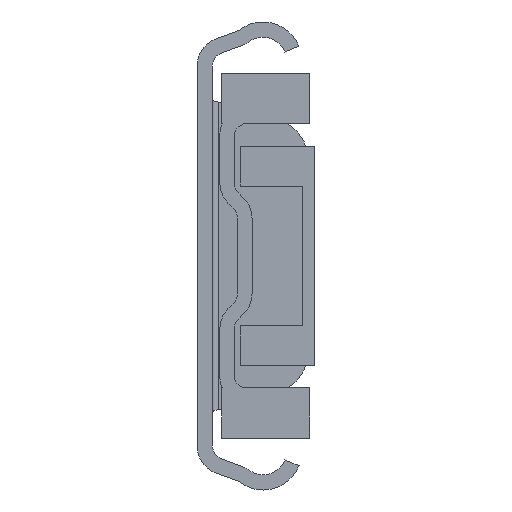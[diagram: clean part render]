
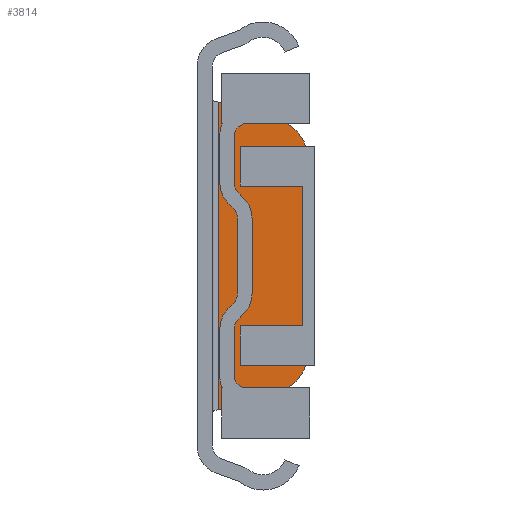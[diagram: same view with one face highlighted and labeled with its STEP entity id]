
A CAD part, front view. The second image highlights one B-rep face of the part: STEP entity #3814.
In plain terms, the highlighted planar face has unit normal (0, -1, 0).
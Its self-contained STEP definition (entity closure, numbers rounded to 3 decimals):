
#337=LINE('',#6547,#720);
#338=LINE('',#6552,#721);
#339=LINE('',#6556,#722);
#340=LINE('',#6558,#723);
#720=VECTOR('',#5419,1000.);
#721=VECTOR('',#5422,1000.);
#722=VECTOR('',#5425,1000.);
#723=VECTOR('',#5426,1000.);
#887=PLANE('',#4506);
#1731=ORIENTED_EDGE('',*,*,#2427,.F.);
#1732=ORIENTED_EDGE('',*,*,#2428,.F.);
#1733=ORIENTED_EDGE('',*,*,#2429,.F.);
#1734=ORIENTED_EDGE('',*,*,#2430,.F.);
#1735=ORIENTED_EDGE('',*,*,#2431,.F.);
#1736=ORIENTED_EDGE('',*,*,#2432,.F.);
#2427=EDGE_CURVE('',#2848,#2849,#337,.T.);
#2428=EDGE_CURVE('',#2850,#2848,#3060,.F.);
#2429=EDGE_CURVE('',#2851,#2850,#338,.T.);
#2430=EDGE_CURVE('',#2852,#2851,#3061,.F.);
#2431=EDGE_CURVE('',#2853,#2852,#339,.T.);
#2432=EDGE_CURVE('',#2849,#2853,#340,.T.);
#2848=VERTEX_POINT('',#6548);
#2849=VERTEX_POINT('',#6549);
#2850=VERTEX_POINT('',#6551);
#2851=VERTEX_POINT('',#6553);
#2852=VERTEX_POINT('',#6555);
#2853=VERTEX_POINT('',#6557);
#3060=CIRCLE('',#4507,8.);
#3061=CIRCLE('',#4508,8.);
#3283=EDGE_LOOP('',(#1731,#1732,#1733,#1734,#1735,#1736));
#3524=FACE_BOUND('',#3283,.T.);
#3814=ADVANCED_FACE('',(#3524),#887,.T.);
#4506=AXIS2_PLACEMENT_3D('',#6546,#5417,#5418);
#4507=AXIS2_PLACEMENT_3D('',#6550,#5420,#5421);
#4508=AXIS2_PLACEMENT_3D('',#6554,#5423,#5424);
#5417=DIRECTION('',(0.,-1.,0.));
#5418=DIRECTION('',(0.,0.,-1.));
#5419=DIRECTION('',(-0.966,0.,-0.259));
#5420=DIRECTION('',(0.,-1.,0.));
#5421=DIRECTION('',(0.,0.,-1.));
#5422=DIRECTION('',(0.,0.,-1.));
#5423=DIRECTION('',(0.,-1.,0.));
#5424=DIRECTION('',(0.,0.,-1.));
#5425=DIRECTION('',(0.966,0.,-0.259));
#5426=DIRECTION('',(0.,0.,1.));
#6546=CARTESIAN_POINT('',(12.9,607.1,14.965));
#6547=CARTESIAN_POINT('',(22.316,607.1,-20.174));
#6548=CARTESIAN_POINT('',(12.471,607.1,-22.812));
#6549=CARTESIAN_POINT('',(3.5,607.1,-25.216));
#6550=CARTESIAN_POINT('',(10.4,607.1,-15.085));
#6551=CARTESIAN_POINT('',(18.4,607.1,-15.085));
#6552=CARTESIAN_POINT('',(18.4,607.1,14.965));
#6553=CARTESIAN_POINT('',(18.4,607.1,15.085));
#6554=CARTESIAN_POINT('',(10.4,607.1,15.085));
#6555=CARTESIAN_POINT('',(12.471,607.1,22.812));
#6556=CARTESIAN_POINT('',(14.833,607.1,22.179));
#6557=CARTESIAN_POINT('',(3.5,607.1,25.216));
#6558=CARTESIAN_POINT('',(3.5,607.1,-25.766));
